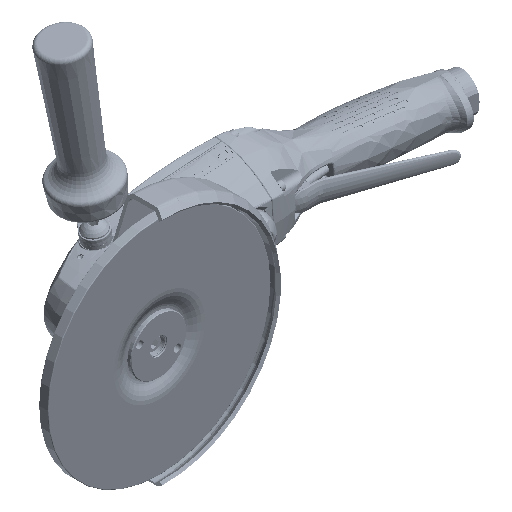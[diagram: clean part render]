
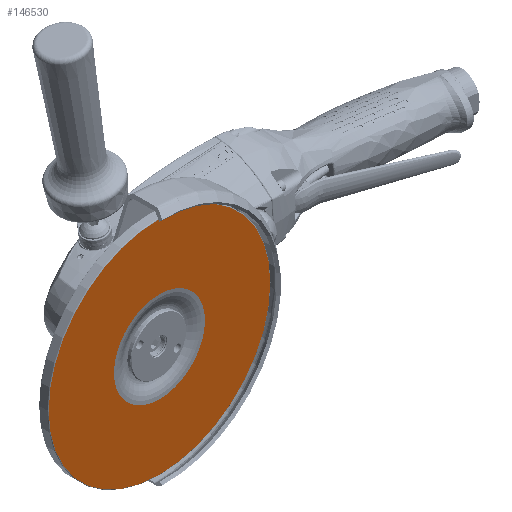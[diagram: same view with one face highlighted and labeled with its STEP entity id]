
A CAD part, isometric view. The second image highlights one B-rep face of the part: STEP entity #146530.
In plain terms, the highlighted planar face has unit normal (0, -1, 0) as drawn and (0, 1, 0) by its records, which use the part's own axes.
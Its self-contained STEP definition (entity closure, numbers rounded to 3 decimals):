
#146158=CARTESIAN_POINT('',(0.,0.,0.));
#146159=DIRECTION('',(0.,1.,0.));
#146160=DIRECTION('',(-1.,0.,0.));
#146161=AXIS2_PLACEMENT_3D('',#146158,#146159,#146160);
#146163=CARTESIAN_POINT('',(0.,0.,0.));
#146164=DIRECTION('',(0.,1.,0.));
#146165=DIRECTION('',(1.,0.,0.));
#146166=AXIS2_PLACEMENT_3D('',#146163,#146164,#146165);
#146168=CARTESIAN_POINT('',(0.,0.,0.));
#146169=DIRECTION('',(0.,-1.,0.));
#146170=DIRECTION('',(1.,0.,0.));
#146171=AXIS2_PLACEMENT_3D('',#146168,#146169,#146170);
#146183=CARTESIAN_POINT('',(0.,0.,0.));
#146184=DIRECTION('',(0.,1.,0.));
#146185=DIRECTION('',(1.,0.,0.));
#146186=AXIS2_PLACEMENT_3D('',#146183,#146184,#146185);
#146269=CARTESIAN_POINT('',(36.764,0.,0.));
#146270=VERTEX_POINT('',#146269);
#146277=CARTESIAN_POINT('',(-36.764,0.,0.));
#146278=VERTEX_POINT('',#146277);
#146289=CARTESIAN_POINT('',(-89.5,0.,
0.));
#146290=CARTESIAN_POINT('',(89.5,0.,0.));
#146291=VERTEX_POINT('',#146289);
#146292=VERTEX_POINT('',#146290);
#146514=CARTESIAN_POINT('',(0.,0.,0.));
#146515=DIRECTION('',(0.,-1.,0.));
#146516=DIRECTION('',(-1.,0.,0.));
#146517=AXIS2_PLACEMENT_3D('',#146514,#146515,#146516);
#146518=PLANE('',#146517);
#146520=ORIENTED_EDGE('',*,*,#146519,.F.);
#146521=ORIENTED_EDGE('',*,*,#146504,.F.);
#146522=EDGE_LOOP('',(#146520,#146521));
#146523=FACE_OUTER_BOUND('',#146522,.F.);
#146525=ORIENTED_EDGE('',*,*,#146524,.F.);
#146527=ORIENTED_EDGE('',*,*,#146526,.T.);
#146528=EDGE_LOOP('',(#146525,#146527));
#146529=FACE_BOUND('',#146528,.F.);
#146530=ADVANCED_FACE('',(#146523,#146529),#146518,.F.);
#146162=CIRCLE('',#146161,89.5);
#146167=CIRCLE('',#146166,89.5);
#146172=CIRCLE('',#146171,36.764);
#146187=CIRCLE('',#146186,36.764);
#146504=EDGE_CURVE('',#146292,#146291,#146167,.T.);
#146519=EDGE_CURVE('',#146291,#146292,#146162,.T.);
#146524=EDGE_CURVE('',#146270,#146278,#146172,.T.);
#146526=EDGE_CURVE('',#146270,#146278,#146187,.T.);
